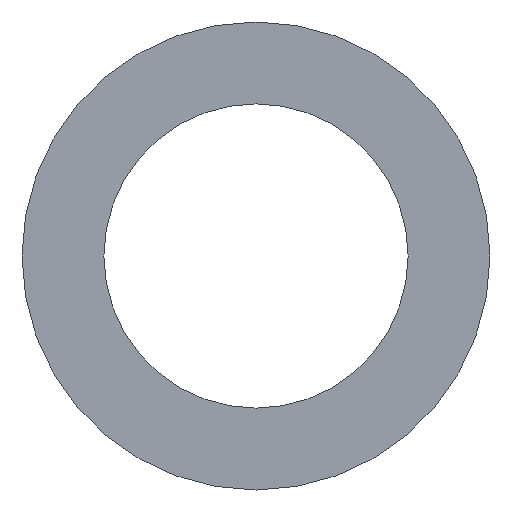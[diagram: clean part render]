
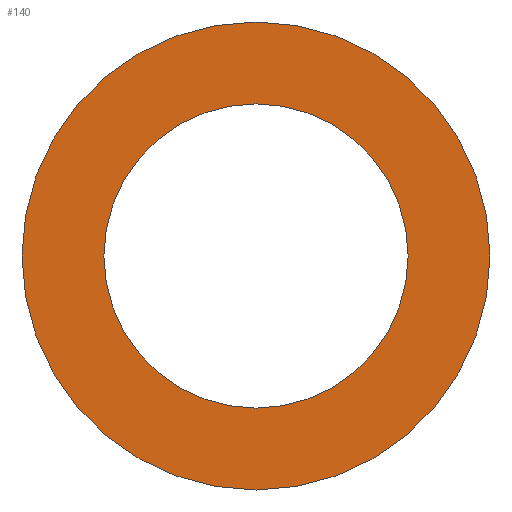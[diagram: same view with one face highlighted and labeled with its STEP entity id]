
A CAD part, front view. The second image highlights one B-rep face of the part: STEP entity #140.
In plain terms, the highlighted planar face has unit normal (0, -1, 0).
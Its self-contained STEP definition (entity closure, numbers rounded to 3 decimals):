
#31 = CYLINDRICAL_SURFACE('',#32,9.6);
#32 = AXIS2_PLACEMENT_3D('',#33,#34,#35);
#33 = CARTESIAN_POINT('',(-224.5,100.,68.94));
#34 = DIRECTION('',(0.,1.,0.));
#35 = DIRECTION('',(0.,-0.,1.));
#56 = VERTEX_POINT('',#57);
#57 = CARTESIAN_POINT('',(-224.5,100.,78.54));
#78 = EDGE_CURVE('',#56,#56,#79,.T.);
#79 = SURFACE_CURVE('',#80,(#85,#92),.PCURVE_S1.);
#80 = CIRCLE('',#81,9.6);
#81 = AXIS2_PLACEMENT_3D('',#82,#83,#84);
#82 = CARTESIAN_POINT('',(-224.5,100.,68.94));
#83 = DIRECTION('',(0.,1.,0.));
#84 = DIRECTION('',(0.,-0.,1.));
#85 = PCURVE('',#31,#86);
#86 = DEFINITIONAL_REPRESENTATION('',(#87),#91);
#87 = LINE('',#88,#89);
#88 = CARTESIAN_POINT('',(0.,0.));
#89 = VECTOR('',#90,1.);
#90 = DIRECTION('',(1.,0.));
#91 = ( GEOMETRIC_REPRESENTATION_CONTEXT(2) 
PARAMETRIC_REPRESENTATION_CONTEXT() REPRESENTATION_CONTEXT('2D SPACE',''
  ) );
#92 = PCURVE('',#93,#98);
#93 = PLANE('',#94);
#94 = AXIS2_PLACEMENT_3D('',#95,#96,#97);
#95 = CARTESIAN_POINT('',(-224.5,100.,68.94));
#96 = DIRECTION('',(0.,1.,0.));
#97 = DIRECTION('',(0.,-0.,1.));
#98 = DEFINITIONAL_REPRESENTATION('',(#99),#103);
#99 = CIRCLE('',#100,9.6);
#100 = AXIS2_PLACEMENT_2D('',#101,#102);
#101 = CARTESIAN_POINT('',(0.,0.));
#102 = DIRECTION('',(1.,0.));
#103 = ( GEOMETRIC_REPRESENTATION_CONTEXT(2) 
PARAMETRIC_REPRESENTATION_CONTEXT() REPRESENTATION_CONTEXT('2D SPACE',''
  ) );
#129 = CYLINDRICAL_SURFACE('',#130,6.24);
#130 = AXIS2_PLACEMENT_3D('',#131,#132,#133);
#131 = CARTESIAN_POINT('',(-224.5,99.5,68.94));
#132 = DIRECTION('',(0.,1.,0.));
#133 = DIRECTION('',(0.,-0.,1.));
#140 = ADVANCED_FACE('',(#141,#144),#93,.F.);
#141 = FACE_BOUND('',#142,.F.);
#142 = EDGE_LOOP('',(#143));
#143 = ORIENTED_EDGE('',*,*,#78,.T.);
#144 = FACE_BOUND('',#145,.F.);
#145 = EDGE_LOOP('',(#146));
#146 = ORIENTED_EDGE('',*,*,#147,.F.);
#147 = EDGE_CURVE('',#148,#148,#150,.T.);
#148 = VERTEX_POINT('',#149);
#149 = CARTESIAN_POINT('',(-224.5,100.,75.18));
#150 = SURFACE_CURVE('',#151,(#156,#163),.PCURVE_S1.);
#151 = CIRCLE('',#152,6.24);
#152 = AXIS2_PLACEMENT_3D('',#153,#154,#155);
#153 = CARTESIAN_POINT('',(-224.5,100.,68.94));
#154 = DIRECTION('',(0.,1.,0.));
#155 = DIRECTION('',(0.,-0.,1.));
#156 = PCURVE('',#93,#157);
#157 = DEFINITIONAL_REPRESENTATION('',(#158),#162);
#158 = CIRCLE('',#159,6.24);
#159 = AXIS2_PLACEMENT_2D('',#160,#161);
#160 = CARTESIAN_POINT('',(0.,0.));
#161 = DIRECTION('',(1.,0.));
#162 = ( GEOMETRIC_REPRESENTATION_CONTEXT(2) 
PARAMETRIC_REPRESENTATION_CONTEXT() REPRESENTATION_CONTEXT('2D SPACE',''
  ) );
#163 = PCURVE('',#129,#164);
#164 = DEFINITIONAL_REPRESENTATION('',(#165),#169);
#165 = LINE('',#166,#167);
#166 = CARTESIAN_POINT('',(0.,0.5));
#167 = VECTOR('',#168,1.);
#168 = DIRECTION('',(1.,0.));
#169 = ( GEOMETRIC_REPRESENTATION_CONTEXT(2) 
PARAMETRIC_REPRESENTATION_CONTEXT() REPRESENTATION_CONTEXT('2D SPACE',''
  ) );
